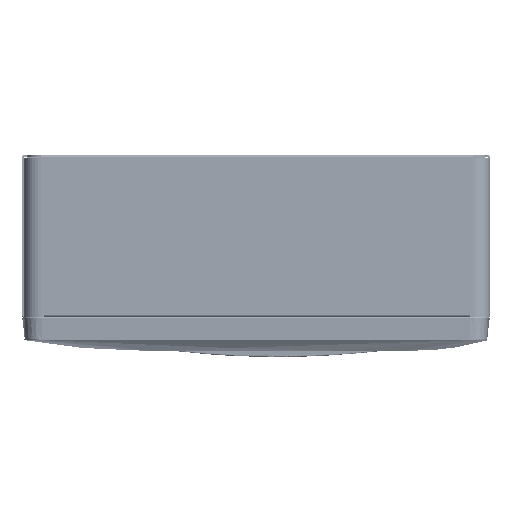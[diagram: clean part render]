
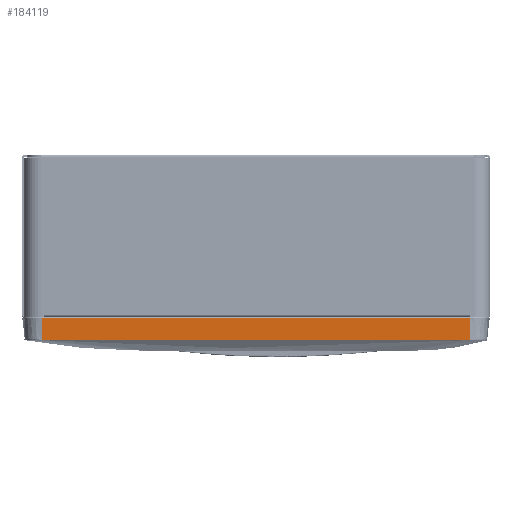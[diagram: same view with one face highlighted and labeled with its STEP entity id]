
A CAD part, left-side view. The second image highlights one B-rep face of the part: STEP entity #184119.
In plain terms, the highlighted planar face has unit normal (-0.999, 0, -0.035) as drawn and (0.999, 0, 0.035) by its records, which use the part's own axes.
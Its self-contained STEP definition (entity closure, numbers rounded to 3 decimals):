
#2490 = VERTEX_POINT ( 'NONE', #93796 ) ;
#2920 = EDGE_CURVE ( 'NONE', #2490, #147223, #135978, .T. ) ;
#6714 = CARTESIAN_POINT ( 'NONE',  ( 227.634, -97.558, 10.467 ) ) ;
#18064 = CARTESIAN_POINT ( 'NONE',  ( 227.635, -90.918, 10.463 ) ) ;
#19911 = CARTESIAN_POINT ( 'NONE',  ( 227.635, 97.813, 10.444 ) ) ;
#20837 = CARTESIAN_POINT ( 'NONE',  ( 227.636, 98.069, 10.433 ) ) ;
#21405 = ORIENTED_EDGE ( 'NONE', *, *, #176484, .T. ) ;
#22535 = PLANE ( 'NONE',  #156017 ) ;
#22880 = DIRECTION ( 'NONE',  ( 0., 1., 0. ) ) ;
#24498 = DIRECTION ( 'NONE',  ( -0.035, 0., 0.999 ) ) ;
#34030 = CARTESIAN_POINT ( 'NONE',  ( 227.635, 96.026, 10.463 ) ) ;
#35873 = CARTESIAN_POINT ( 'NONE',  ( 227.635, 96.792, 10.463 ) ) ;
#46722 = CARTESIAN_POINT ( 'NONE',  ( 228., -98.069, 0. ) ) ;
#48167 = CARTESIAN_POINT ( 'NONE',  ( 227.635, 97.047, 10.464 ) ) ;
#51915 = CARTESIAN_POINT ( 'NONE',  ( 227.975, 98.069, 0.725 ) ) ;
#59212 = EDGE_CURVE ( 'NONE', #185345, #131559, #152677, .T. ) ;
#62292 = CARTESIAN_POINT ( 'NONE',  ( 227.635, 97.558, 10.453 ) ) ;
#63217 = CARTESIAN_POINT ( 'NONE',  ( 227.635, -32.69, 10.464 ) ) ;
#75509 = CARTESIAN_POINT ( 'NONE',  ( 227.635, 94.493, 10.463 ) ) ;
#78282 = CARTESIAN_POINT ( 'NONE',  ( 227.635, -57.207, 10.464 ) ) ;
#78466 = CARTESIAN_POINT ( 'NONE',  ( 227.975, -107., 0.725 ) ) ;
#79208 = CARTESIAN_POINT ( 'NONE',  ( 227.635, -16.345, 10.465 ) ) ;
#88453 = CARTESIAN_POINT ( 'NONE',  ( 227.636, 98.069, 10.433 ) ) ;
#91533 = CARTESIAN_POINT ( 'NONE',  ( 227.635, 83.767, 10.463 ) ) ;
#92587 = EDGE_CURVE ( 'NONE', #131559, #2490, #176795, .T. ) ;
#93796 = CARTESIAN_POINT ( 'NONE',  ( 227.975, -98.069, 0.725 ) ) ;
#104023 = VECTOR ( 'NONE', #24498, 1000. ) ;
#104260 = DIRECTION ( 'NONE',  ( 0.035, 0., -0.999 ) ) ;
#104771 = CARTESIAN_POINT ( 'NONE',  ( 227.635, -97.047, 10.463 ) ) ;
#106536 = VECTOR ( 'NONE', #104260, 1000. ) ;
#106622 = CARTESIAN_POINT ( 'NONE',  ( 227.635, 90.918, 10.463 ) ) ;
#107544 = CARTESIAN_POINT ( 'NONE',  ( 227.635, -83.767, 10.463 ) ) ;
#108094 = CARTESIAN_POINT ( 'NONE',  ( 227.635, -98.069, 10.45 ) ) ;
#108460 = CARTESIAN_POINT ( 'NONE',  ( 227.635, 57.207, 10.464 ) ) ;
#111088 = DIRECTION ( 'NONE',  ( 0.999, 0., 0.035 ) ) ;
#118897 = CARTESIAN_POINT ( 'NONE',  ( 227.635, 69.465, 10.464 ) ) ;
#120683 = ORIENTED_EDGE ( 'NONE', *, *, #2920, .T. ) ;
#125217 = FACE_OUTER_BOUND ( 'NONE', #171771, .T. ) ;
#125708 = VECTOR ( 'NONE', #22880, 1000. ) ;
#131559 = VERTEX_POINT ( 'NONE', #108094 ) ;
#135790 = CARTESIAN_POINT ( 'NONE',  ( 227.635, -96.026, 10.463 ) ) ;
#135978 = LINE ( 'NONE', #78466, #125708 ) ;
#136211 = ORIENTED_EDGE ( 'NONE', *, *, #59212, .T. ) ;
#136710 = CARTESIAN_POINT ( 'NONE',  ( 227.635, -69.465, 10.464 ) ) ;
#147223 = VERTEX_POINT ( 'NONE', #51915 ) ;
#149004 = CARTESIAN_POINT ( 'NONE',  ( 227.635, 16.345, 10.465 ) ) ;
#152677 = B_SPLINE_CURVE_WITH_KNOTS ( 'NONE', 3,
 ( #20837, #19911, #62292, #48167, #35873, #34030, #75509, #106622, #91533, #118897, #108460, #180087, #149004, #79208, #63217, #78282, #136710, #107544, #18064, #176380, #135790, #104771, #6714, #178244 ),
 .UNSPECIFIED., .F., .F.,
 ( 4, 2, 2, 1, 1, 1, 1, 2, 2, 2, 1, 1, 1, 1, 2, 4 ),
 ( 0., 0.001, 0.002, 0.003, 0.006, 0.012, 0.025, 0.049, 0.098, 0.147, 0.172, 0.184, 0.19, 0.193, 0.195, 0.196 ),
 .UNSPECIFIED. ) ;
#153587 = LINE ( 'NONE', #164971, #104023 ) ;
#155349 = DIRECTION ( 'NONE',  ( 0.035, 0., -0.999 ) ) ;
#156017 = AXIS2_PLACEMENT_3D ( 'NONE', #166715, #111088, #155349 ) ;
#164971 = CARTESIAN_POINT ( 'NONE',  ( 228., 98.069, 0. ) ) ;
#166715 = CARTESIAN_POINT ( 'NONE',  ( 228., -107., 0. ) ) ;
#171771 = EDGE_LOOP ( 'NONE', ( #21405, #136211, #176414, #120683 ) ) ;
#176380 = CARTESIAN_POINT ( 'NONE',  ( 227.635, -94.493, 10.463 ) ) ;
#176414 = ORIENTED_EDGE ( 'NONE', *, *, #92587, .T. ) ;
#176484 = EDGE_CURVE ( 'NONE', #147223, #185345, #153587, .T. ) ;
#176795 = LINE ( 'NONE', #46722, #106536 ) ;
#178244 = CARTESIAN_POINT ( 'NONE',  ( 227.635, -98.069, 10.45 ) ) ;
#180087 = CARTESIAN_POINT ( 'NONE',  ( 227.635, 32.69, 10.464 ) ) ;
#184119 = ADVANCED_FACE ( 'NONE', ( #125217 ), #22535, .T. ) ;
#185345 = VERTEX_POINT ( 'NONE', #88453 ) ;
